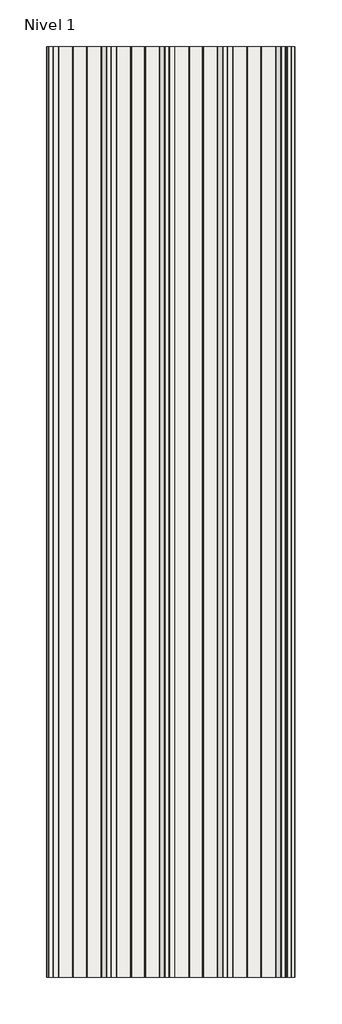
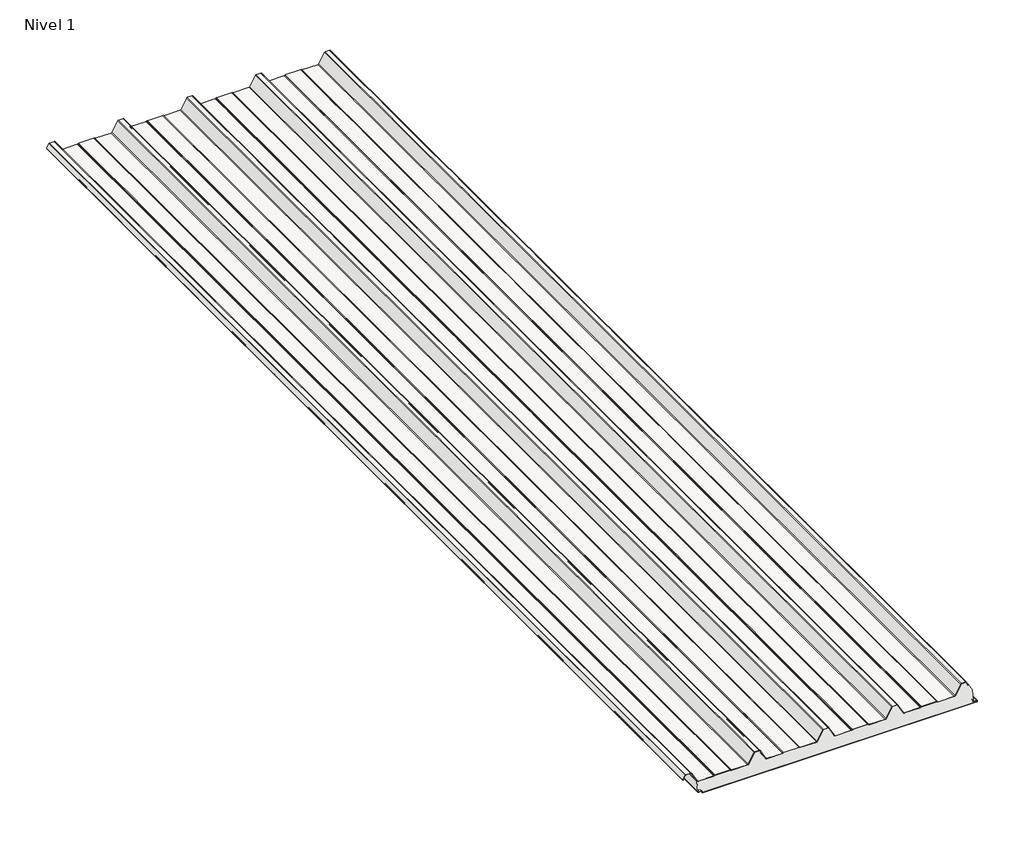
# One storey: 1 slab.
"""IFC4 building model written with IfcOpenShell, lengths in millimetres."""

from ifc_helpers import new_model, si_unit, origin, place, context, project, spatial, transform, mapped, element, save
from components import hi_quadcore_2_0_xt_50_liso_grecada_518eda4b

model = new_model("IFC4")

# Units and contexts
model_context = context("Model", 3, world=origin())
ifc_project = project(units=[si_unit("LENGTHUNIT", "METRE", prefix="MILLI")], contexts=[model_context])

# Site, building, storey
site = spatial("IfcSite", under=ifc_project)
building = spatial("IfcBuilding", under=site)
storey = spatial("IfcBuildingStorey", under=building, Name="Nivel 1", Elevation=0.0)

# Slab
placement = place(None, origin())
hi_quadcore_2_0_xt_50_liso_grecada_shape = hi_quadcore_2_0_xt_50_liso_grecada_518eda4b(model_context)
element("IfcSlab", 1, ObjectType="Panel_HI_QuadCore 2.0 XT-XT DUAL_liso-grecada : HI-Quadcore 2.0 XT 50 liso-grecada", at=placement, inside=storey, context=model_context, shape_type="MappedRepresentation", body=[
    mapped(hi_quadcore_2_0_xt_50_liso_grecada_shape, transform((179.0307103, 435.507424, 0.0), x_axis=(1.0, 0.0, 0.0), y_axis=(0.0, 1.0, 0.0), z_axis=(0.0, 0.0, 1.0))),
])

save(model, "model.ifc")
